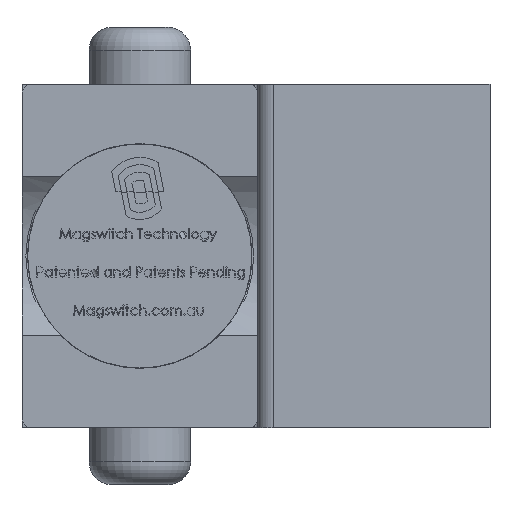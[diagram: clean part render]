
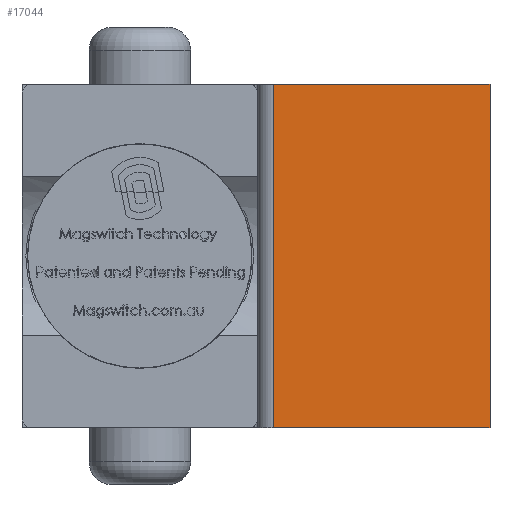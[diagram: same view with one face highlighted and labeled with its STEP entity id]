
A CAD part, front view. The second image highlights one B-rep face of the part: STEP entity #17044.
In plain terms, the highlighted planar face has unit normal (0, -1, 0).
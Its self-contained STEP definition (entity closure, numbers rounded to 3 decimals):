
#91 = ORIENTED_EDGE ( 'NONE', *, *, #14793, .T. ) ;
#394 = VECTOR ( 'NONE', #12949, 1000. ) ;
#945 = LINE ( 'NONE', #5503, #7023 ) ;
#1324 = LINE ( 'NONE', #15853, #15688 ) ;
#2063 = FACE_OUTER_BOUND ( 'NONE', #8833, .T. ) ;
#2245 = VERTEX_POINT ( 'NONE', #11981 ) ;
#3692 = LINE ( 'NONE', #9896, #394 ) ;
#4686 = VERTEX_POINT ( 'NONE', #14731 ) ;
#4815 = ORIENTED_EDGE ( 'NONE', *, *, #10527, .T. ) ;
#5503 = CARTESIAN_POINT ( 'NONE',  ( 80.058, -24.057, -37.877 ) ) ;
#5989 = LINE ( 'NONE', #15074, #16650 ) ;
#6337 = DIRECTION ( 'NONE',  ( -1., 0., 0. ) ) ;
#7023 = VECTOR ( 'NONE', #16076, 1000. ) ;
#7489 = DIRECTION ( 'NONE',  ( 1., 0., 0. ) ) ;
#7709 = EDGE_CURVE ( 'NONE', #4686, #14945, #1324, .T. ) ;
#8833 = EDGE_LOOP ( 'NONE', ( #4815, #18984, #91, #13204 ) ) ;
#9896 = CARTESIAN_POINT ( 'NONE',  ( 32.758, -24.057, 37.123 ) ) ;
#10492 = AXIS2_PLACEMENT_3D ( 'NONE', #14792, #14976, #7489 ) ;
#10527 = EDGE_CURVE ( 'NONE', #14945, #19300, #5989, .T. ) ;
#11979 = CARTESIAN_POINT ( 'NONE',  ( 80.058, -24.057, 37.123 ) ) ;
#11981 = CARTESIAN_POINT ( 'NONE',  ( 32.758, -24.057, -37.877 ) ) ;
#12949 = DIRECTION ( 'NONE',  ( 0., 0., -1. ) ) ;
#13146 = CARTESIAN_POINT ( 'NONE',  ( 32.758, -24.057, 37.123 ) ) ;
#13204 = ORIENTED_EDGE ( 'NONE', *, *, #7709, .T. ) ;
#13601 = PLANE ( 'NONE',  #10492 ) ;
#14731 = CARTESIAN_POINT ( 'NONE',  ( 80.058, -24.057, -37.877 ) ) ;
#14792 = CARTESIAN_POINT ( 'NONE',  ( 29.258, -24.057, 37.123 ) ) ;
#14793 = EDGE_CURVE ( 'NONE', #2245, #4686, #945, .T. ) ;
#14945 = VERTEX_POINT ( 'NONE', #11979 ) ;
#14976 = DIRECTION ( 'NONE',  ( 0., -1., 0. ) ) ;
#15074 = CARTESIAN_POINT ( 'NONE',  ( 80.058, -24.057, 37.123 ) ) ;
#15688 = VECTOR ( 'NONE', #17576, 1000. ) ;
#15853 = CARTESIAN_POINT ( 'NONE',  ( 80.058, -24.057, 37.123 ) ) ;
#16076 = DIRECTION ( 'NONE',  ( 1., 0., 0. ) ) ;
#16650 = VECTOR ( 'NONE', #6337, 1000. ) ;
#17044 = ADVANCED_FACE ( 'NONE', ( #2063 ), #13601, .T. ) ;
#17576 = DIRECTION ( 'NONE',  ( 0., 0., 1. ) ) ;
#17927 = EDGE_CURVE ( 'NONE', #19300, #2245, #3692, .T. ) ;
#18984 = ORIENTED_EDGE ( 'NONE', *, *, #17927, .T. ) ;
#19300 = VERTEX_POINT ( 'NONE', #13146 ) ;
